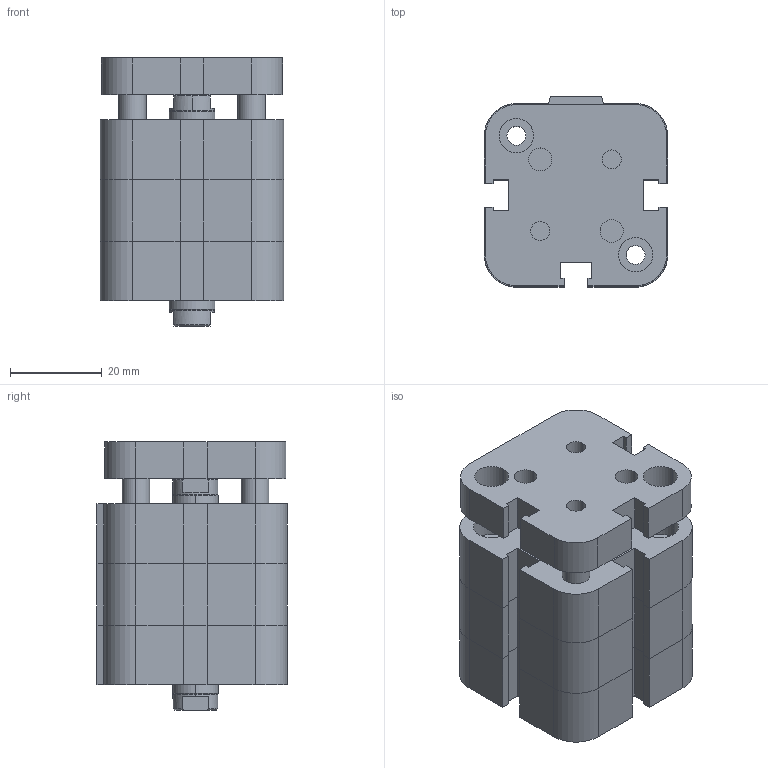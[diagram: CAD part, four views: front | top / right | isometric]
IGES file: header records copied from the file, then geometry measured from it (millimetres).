
Global section: file name: No Iges File Name specified; native system: Autodesk Inventor 2009; preprocessor: AutoDesk Inventor Iges Exporter R2009; author: maffial1; date: 20090420.202016; units: millimetre
Bounding box: 40 x 41.5 x 58.5 mm (x, y, z)
Volume: 66670.4 mm3; surface area: 21552.6 mm2
Topology: 2 solids, 2 shells, 233 faces, 558 edges, 346 vertices
Faces by surface type: plane 135, bspline 64, cylinder 26, cone 8
